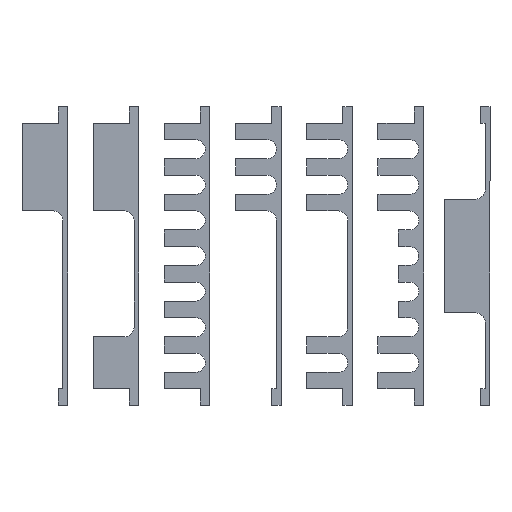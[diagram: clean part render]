
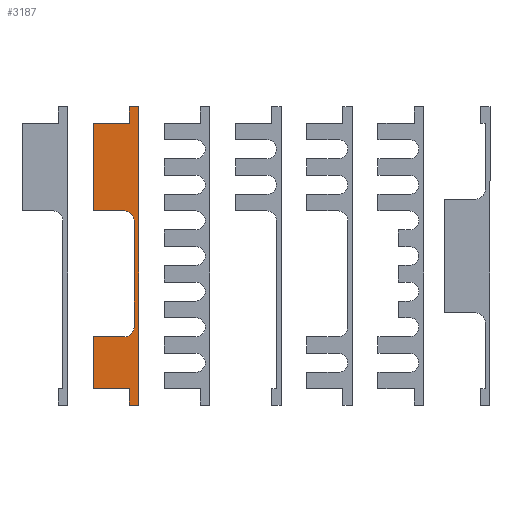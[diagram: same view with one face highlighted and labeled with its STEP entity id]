
A CAD part, top view. The second image highlights one B-rep face of the part: STEP entity #3187.
In plain terms, the highlighted planar face has unit normal (0, 0, 1).
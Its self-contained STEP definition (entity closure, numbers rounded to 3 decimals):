
#42=CIRCLE('',#3384,10.);
#44=CIRCLE('',#3388,10.);
#160=FACE_OUTER_BOUND('',#330,.T.);
#330=EDGE_LOOP('',(#2328,#2329,#2330,#2331,#2332,#2333,#2334,#2335,#2336,
#2337,#2338,#2339,#2340,#2341));
#544=LINE('',#4639,#958);
#547=LINE('',#4645,#961);
#550=LINE('',#4651,#964);
#553=LINE('',#4657,#967);
#556=LINE('',#4663,#970);
#560=LINE('',#4675,#974);
#564=LINE('',#4687,#978);
#567=LINE('',#4693,#981);
#570=LINE('',#4699,#984);
#573=LINE('',#4705,#987);
#576=LINE('',#4711,#990);
#579=LINE('',#4715,#993);
#958=VECTOR('',#3753,10.);
#961=VECTOR('',#3758,10.);
#964=VECTOR('',#3763,10.);
#967=VECTOR('',#3768,10.);
#970=VECTOR('',#3773,10.);
#974=VECTOR('',#3785,10.);
#978=VECTOR('',#3797,10.);
#981=VECTOR('',#3802,10.);
#984=VECTOR('',#3807,10.);
#987=VECTOR('',#3812,10.);
#990=VECTOR('',#3817,10.);
#993=VECTOR('',#3822,10.);
#1350=VERTEX_POINT('',#4636);
#1351=VERTEX_POINT('',#4638);
#1353=VERTEX_POINT('',#4644);
#1355=VERTEX_POINT('',#4650);
#1357=VERTEX_POINT('',#4656);
#1359=VERTEX_POINT('',#4662);
#1361=VERTEX_POINT('',#4668);
#1363=VERTEX_POINT('',#4674);
#1365=VERTEX_POINT('',#4680);
#1367=VERTEX_POINT('',#4686);
#1369=VERTEX_POINT('',#4692);
#1371=VERTEX_POINT('',#4698);
#1373=VERTEX_POINT('',#4704);
#1375=VERTEX_POINT('',#4710);
#1698=EDGE_CURVE('',#1351,#1350,#544,.T.);
#1701=EDGE_CURVE('',#1353,#1351,#547,.T.);
#1704=EDGE_CURVE('',#1355,#1353,#550,.T.);
#1707=EDGE_CURVE('',#1357,#1355,#553,.T.);
#1710=EDGE_CURVE('',#1359,#1357,#556,.T.);
#1713=EDGE_CURVE('',#1361,#1359,#42,.T.);
#1716=EDGE_CURVE('',#1363,#1361,#560,.T.);
#1719=EDGE_CURVE('',#1365,#1363,#44,.T.);
#1722=EDGE_CURVE('',#1367,#1365,#564,.T.);
#1725=EDGE_CURVE('',#1369,#1367,#567,.T.);
#1728=EDGE_CURVE('',#1371,#1369,#570,.T.);
#1731=EDGE_CURVE('',#1373,#1371,#573,.T.);
#1734=EDGE_CURVE('',#1375,#1373,#576,.T.);
#1737=EDGE_CURVE('',#1350,#1375,#579,.T.);
#2328=ORIENTED_EDGE('',*,*,#1737,.T.);
#2329=ORIENTED_EDGE('',*,*,#1734,.T.);
#2330=ORIENTED_EDGE('',*,*,#1731,.T.);
#2331=ORIENTED_EDGE('',*,*,#1728,.T.);
#2332=ORIENTED_EDGE('',*,*,#1725,.T.);
#2333=ORIENTED_EDGE('',*,*,#1722,.T.);
#2334=ORIENTED_EDGE('',*,*,#1719,.T.);
#2335=ORIENTED_EDGE('',*,*,#1716,.T.);
#2336=ORIENTED_EDGE('',*,*,#1713,.T.);
#2337=ORIENTED_EDGE('',*,*,#1710,.T.);
#2338=ORIENTED_EDGE('',*,*,#1707,.T.);
#2339=ORIENTED_EDGE('',*,*,#1704,.T.);
#2340=ORIENTED_EDGE('',*,*,#1701,.T.);
#2341=ORIENTED_EDGE('',*,*,#1698,.T.);
#3035=PLANE('',#3395);
#3187=ADVANCED_FACE('',(#160),#3035,.T.);
#3384=AXIS2_PLACEMENT_3D('',#4669,#3779,#3780);
#3388=AXIS2_PLACEMENT_3D('',#4681,#3791,#3792);
#3395=AXIS2_PLACEMENT_3D('',#4716,#3823,#3824);
#3753=DIRECTION('',(1.,0.,0.));
#3758=DIRECTION('',(0.,-1.,0.));
#3763=DIRECTION('',(1.,0.,0.));
#3768=DIRECTION('',(0.,-1.,0.));
#3773=DIRECTION('',(-1.,0.,0.));
#3779=DIRECTION('center_axis',(0.,0.,-1.));
#3780=DIRECTION('ref_axis',(0.,-1.,0.));
#3785=DIRECTION('',(0.,-1.,0.));
#3791=DIRECTION('center_axis',(0.,0.,-1.));
#3792=DIRECTION('ref_axis',(1.,0.,0.));
#3797=DIRECTION('',(1.,0.,0.));
#3802=DIRECTION('',(0.,-1.,0.));
#3807=DIRECTION('',(-1.,0.,0.));
#3812=DIRECTION('',(0.,-1.,0.));
#3817=DIRECTION('',(-1.,0.,0.));
#3822=DIRECTION('',(0.,1.,0.));
#3823=DIRECTION('center_axis',(0.,0.,1.));
#3824=DIRECTION('ref_axis',(0.,-1.,0.));
#4636=CARTESIAN_POINT('',(-330.,226.,5.));
#4638=CARTESIAN_POINT('',(-340.,226.,5.));
#4639=CARTESIAN_POINT('',(-330.,226.,5.));
#4644=CARTESIAN_POINT('',(-340.,243.,5.));
#4645=CARTESIAN_POINT('',(-340.,226.,5.));
#4650=CARTESIAN_POINT('',(-378.,243.,5.));
#4651=CARTESIAN_POINT('',(-340.,243.,5.));
#4656=CARTESIAN_POINT('',(-378.,298.,5.));
#4657=CARTESIAN_POINT('',(-378.,298.,5.));
#4662=CARTESIAN_POINT('',(-345.,298.,5.));
#4663=CARTESIAN_POINT('',(-345.,298.,5.));
#4668=CARTESIAN_POINT('',(-335.,308.,5.));
#4669=CARTESIAN_POINT('Origin',(-345.,308.,5.));
#4674=CARTESIAN_POINT('',(-335.,420.5,5.));
#4675=CARTESIAN_POINT('',(-335.,410.5,5.));
#4680=CARTESIAN_POINT('',(-345.,430.5,5.));
#4681=CARTESIAN_POINT('Origin',(-345.,420.5,5.));
#4686=CARTESIAN_POINT('',(-378.,430.5,5.));
#4687=CARTESIAN_POINT('',(-345.,430.5,5.));
#4692=CARTESIAN_POINT('',(-378.,523.,5.));
#4693=CARTESIAN_POINT('',(-378.,523.,5.));
#4698=CARTESIAN_POINT('',(-340.,523.,5.));
#4699=CARTESIAN_POINT('',(-340.,523.,5.));
#4704=CARTESIAN_POINT('',(-340.,540.,5.));
#4705=CARTESIAN_POINT('',(-340.,540.,5.));
#4710=CARTESIAN_POINT('',(-330.,540.,5.));
#4711=CARTESIAN_POINT('',(-330.,540.,5.));
#4715=CARTESIAN_POINT('',(-330.,243.,5.));
#4716=CARTESIAN_POINT('Origin',(-206.5,383.,5.));
